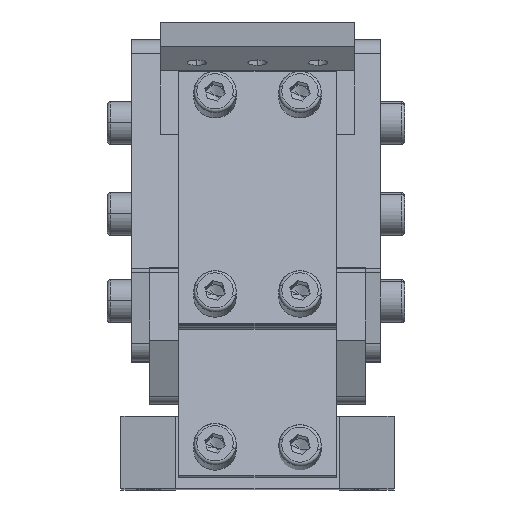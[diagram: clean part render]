
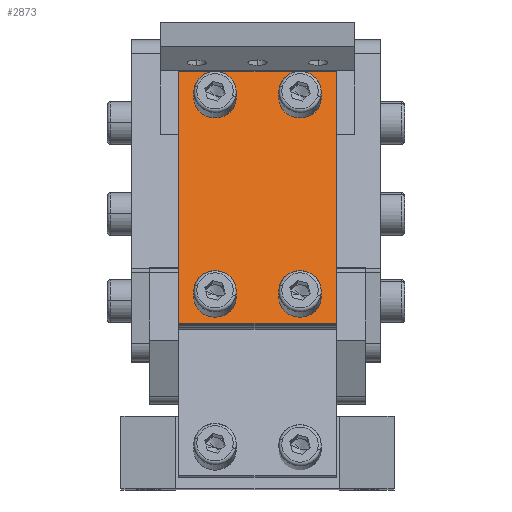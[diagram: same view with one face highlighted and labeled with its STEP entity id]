
A CAD part, top view. The second image highlights one B-rep face of the part: STEP entity #2873.
In plain terms, the highlighted planar face has unit normal (0, 0.259, 0.966).
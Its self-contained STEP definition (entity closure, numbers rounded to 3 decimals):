
#17 = CARTESIAN_POINT ( 'NONE',  ( 9., 25.025, 55.98 ) ) ;
#39 = CARTESIAN_POINT ( 'NONE',  ( 23., -5.885, 64.262 ) ) ;
#47 = CIRCLE ( 'NONE', #8223, 2. ) ;
#248 = PLANE ( 'NONE',  #5058 ) ;
#305 = CARTESIAN_POINT ( 'NONE',  ( 23., 25.025, 55.98 ) ) ;
#435 = CARTESIAN_POINT ( 'NONE',  ( 3., 31.303, 54.298 ) ) ;
#529 = EDGE_CURVE ( 'NONE', #5044, #1659, #5693, .T. ) ;
#1127 = ORIENTED_EDGE ( 'NONE', *, *, #8477, .F. ) ;
#1136 = CIRCLE ( 'NONE', #8290, 2. ) ;
#1173 = DIRECTION ( 'NONE',  ( 0., -0.966, 0.259 ) ) ;
#1384 = VERTEX_POINT ( 'NONE', #2263 ) ;
#1586 = AXIS2_PLACEMENT_3D ( 'NONE', #10965, #9181, #8231 ) ;
#1659 = VERTEX_POINT ( 'NONE', #17 ) ;
#1748 = EDGE_LOOP ( 'NONE', ( #1797, #5864, #11497, #2930 ) ) ;
#1797 = ORIENTED_EDGE ( 'NONE', *, *, #6188, .T. ) ;
#1838 = CIRCLE ( 'NONE', #6961, 2. ) ;
#1888 = VECTOR ( 'NONE', #2692, 1000. ) ;
#1916 = ORIENTED_EDGE ( 'NONE', *, *, #529, .F. ) ;
#2022 = CARTESIAN_POINT ( 'NONE',  ( 29., -10.232, 65.427 ) ) ;
#2051 = EDGE_CURVE ( 'NONE', #11914, #10677, #11863, .T. ) ;
#2140 = VERTEX_POINT ( 'NONE', #9163 ) ;
#2157 = FACE_BOUND ( 'NONE', #4822, .T. ) ;
#2263 = CARTESIAN_POINT ( 'NONE',  ( 3., -10.232, 65.427 ) ) ;
#2631 = CARTESIAN_POINT ( 'NONE',  ( 3., 31.303, 54.298 ) ) ;
#2653 = EDGE_CURVE ( 'NONE', #4749, #11312, #10033, .T. ) ;
#2692 = DIRECTION ( 'NONE',  ( -1., 0., 0. ) ) ;
#2803 = DIRECTION ( 'NONE',  ( 0., 0.966, -0.259 ) ) ;
#2828 = VERTEX_POINT ( 'NONE', #2022 ) ;
#2873 = ADVANCED_FACE ( 'NONE', ( #9897, #11801, #7862, #2157, #11731 ), #248, .T. ) ;
#2906 = DIRECTION ( 'NONE',  ( 0., 0.966, -0.259 ) ) ;
#2930 = ORIENTED_EDGE ( 'NONE', *, *, #6762, .T. ) ;
#2978 = VERTEX_POINT ( 'NONE', #11994 ) ;
#2981 = DIRECTION ( 'NONE',  ( 1., 0., 0. ) ) ;
#3573 = EDGE_CURVE ( 'NONE', #1659, #5044, #1136, .T. ) ;
#3624 = CIRCLE ( 'NONE', #10766, 2. ) ;
#3933 = LINE ( 'NONE', #9502, #11700 ) ;
#4022 = ORIENTED_EDGE ( 'NONE', *, *, #3573, .F. ) ;
#4173 = CARTESIAN_POINT ( 'NONE',  ( 3., 31.303, 54.298 ) ) ;
#4483 = DIRECTION ( 'NONE',  ( 0., 0.966, -0.259 ) ) ;
#4531 = CARTESIAN_POINT ( 'NONE',  ( 23., 26.957, 55.462 ) ) ;
#4533 = CARTESIAN_POINT ( 'NONE',  ( 9., -7.817, 64.78 ) ) ;
#4749 = VERTEX_POINT ( 'NONE', #305 ) ;
#4800 = DIRECTION ( 'NONE',  ( 0., 0.259, 0.966 ) ) ;
#4814 = EDGE_CURVE ( 'NONE', #10677, #11914, #7112, .T. ) ;
#4822 = EDGE_LOOP ( 'NONE', ( #9934, #9783 ) ) ;
#4867 = CARTESIAN_POINT ( 'NONE',  ( 9., 26.957, 55.462 ) ) ;
#5044 = VERTEX_POINT ( 'NONE', #12546 ) ;
#5058 = AXIS2_PLACEMENT_3D ( 'NONE', #11669, #6837, #2981 ) ;
#5319 = CARTESIAN_POINT ( 'NONE',  ( 9., -5.885, 64.262 ) ) ;
#5388 = DIRECTION ( 'NONE',  ( 0., 0.259, 0.966 ) ) ;
#5621 = DIRECTION ( 'NONE',  ( 0., 0.259, 0.966 ) ) ;
#5693 = CIRCLE ( 'NONE', #7351, 2. ) ;
#5773 = VECTOR ( 'NONE', #7789, 1000. ) ;
#5864 = ORIENTED_EDGE ( 'NONE', *, *, #10828, .T. ) ;
#5969 = LINE ( 'NONE', #4173, #6936 ) ;
#6088 = DIRECTION ( 'NONE',  ( 0., 0.966, -0.259 ) ) ;
#6105 = ORIENTED_EDGE ( 'NONE', *, *, #2653, .F. ) ;
#6188 = EDGE_CURVE ( 'NONE', #12397, #1384, #5969, .T. ) ;
#6573 = DIRECTION ( 'NONE',  ( 0., 0.966, -0.259 ) ) ;
#6664 = CARTESIAN_POINT ( 'NONE',  ( 9., 26.957, 55.462 ) ) ;
#6762 = EDGE_CURVE ( 'NONE', #2140, #12397, #7687, .T. ) ;
#6837 = DIRECTION ( 'NONE',  ( 0., 0.259, 0.966 ) ) ;
#6936 = VECTOR ( 'NONE', #1173, 1000. ) ;
#6961 = AXIS2_PLACEMENT_3D ( 'NONE', #10186, #9235, #9302 ) ;
#7112 = CIRCLE ( 'NONE', #1586, 2. ) ;
#7193 = AXIS2_PLACEMENT_3D ( 'NONE', #5319, #5388, #4483 ) ;
#7351 = AXIS2_PLACEMENT_3D ( 'NONE', #4867, #7823, #6088 ) ;
#7687 = LINE ( 'NONE', #2631, #1888 ) ;
#7727 = DIRECTION ( 'NONE',  ( 0., 0.259, 0.966 ) ) ;
#7778 = EDGE_CURVE ( 'NONE', #2978, #10714, #47, .T. ) ;
#7789 = DIRECTION ( 'NONE',  ( 1., 0., 0. ) ) ;
#7823 = DIRECTION ( 'NONE',  ( 0., 0.259, 0.966 ) ) ;
#7862 = FACE_BOUND ( 'NONE', #10585, .T. ) ;
#7899 = ORIENTED_EDGE ( 'NONE', *, *, #9730, .F. ) ;
#7908 = DIRECTION ( 'NONE',  ( 0., 0.259, 0.966 ) ) ;
#7998 = EDGE_LOOP ( 'NONE', ( #6105, #7899 ) ) ;
#8055 = EDGE_LOOP ( 'NONE', ( #8323, #1127 ) ) ;
#8212 = AXIS2_PLACEMENT_3D ( 'NONE', #4531, #7727, #10355 ) ;
#8223 = AXIS2_PLACEMENT_3D ( 'NONE', #39, #7908, #2906 ) ;
#8231 = DIRECTION ( 'NONE',  ( 0., 0.966, -0.259 ) ) ;
#8290 = AXIS2_PLACEMENT_3D ( 'NONE', #6664, #4800, #9598 ) ;
#8314 = CARTESIAN_POINT ( 'NONE',  ( 23., -3.953, 63.744 ) ) ;
#8323 = ORIENTED_EDGE ( 'NONE', *, *, #7778, .F. ) ;
#8442 = CARTESIAN_POINT ( 'NONE',  ( 9., -3.953, 63.744 ) ) ;
#8477 = EDGE_CURVE ( 'NONE', #10714, #2978, #3624, .T. ) ;
#9163 = CARTESIAN_POINT ( 'NONE',  ( 29., 31.303, 54.298 ) ) ;
#9181 = DIRECTION ( 'NONE',  ( 0., 0.259, 0.966 ) ) ;
#9235 = DIRECTION ( 'NONE',  ( 0., 0.259, 0.966 ) ) ;
#9302 = DIRECTION ( 'NONE',  ( 0., 0.966, -0.259 ) ) ;
#9502 = CARTESIAN_POINT ( 'NONE',  ( 29., 31.303, 54.298 ) ) ;
#9514 = LINE ( 'NONE', #10532, #5773 ) ;
#9598 = DIRECTION ( 'NONE',  ( 0., 0.966, -0.259 ) ) ;
#9730 = EDGE_CURVE ( 'NONE', #11312, #4749, #1838, .T. ) ;
#9783 = ORIENTED_EDGE ( 'NONE', *, *, #4814, .F. ) ;
#9897 = FACE_BOUND ( 'NONE', #8055, .T. ) ;
#9934 = ORIENTED_EDGE ( 'NONE', *, *, #2051, .F. ) ;
#10033 = CIRCLE ( 'NONE', #8212, 2. ) ;
#10186 = CARTESIAN_POINT ( 'NONE',  ( 23., 26.957, 55.462 ) ) ;
#10355 = DIRECTION ( 'NONE',  ( 0., 0.966, -0.259 ) ) ;
#10484 = CARTESIAN_POINT ( 'NONE',  ( 23., -5.885, 64.262 ) ) ;
#10532 = CARTESIAN_POINT ( 'NONE',  ( 3., -10.232, 65.427 ) ) ;
#10585 = EDGE_LOOP ( 'NONE', ( #4022, #1916 ) ) ;
#10677 = VERTEX_POINT ( 'NONE', #8442 ) ;
#10714 = VERTEX_POINT ( 'NONE', #8314 ) ;
#10766 = AXIS2_PLACEMENT_3D ( 'NONE', #10484, #5621, #2803 ) ;
#10814 = CARTESIAN_POINT ( 'NONE',  ( 23., 28.888, 54.945 ) ) ;
#10828 = EDGE_CURVE ( 'NONE', #1384, #2828, #9514, .T. ) ;
#10965 = CARTESIAN_POINT ( 'NONE',  ( 9., -5.885, 64.262 ) ) ;
#11312 = VERTEX_POINT ( 'NONE', #10814 ) ;
#11497 = ORIENTED_EDGE ( 'NONE', *, *, #12507, .T. ) ;
#11669 = CARTESIAN_POINT ( 'NONE',  ( 32., -6.483, 64.422 ) ) ;
#11700 = VECTOR ( 'NONE', #6573, 1000. ) ;
#11731 = FACE_OUTER_BOUND ( 'NONE', #1748, .T. ) ;
#11801 = FACE_BOUND ( 'NONE', #7998, .T. ) ;
#11863 = CIRCLE ( 'NONE', #7193, 2. ) ;
#11914 = VERTEX_POINT ( 'NONE', #4533 ) ;
#11994 = CARTESIAN_POINT ( 'NONE',  ( 23., -7.817, 64.78 ) ) ;
#12397 = VERTEX_POINT ( 'NONE', #435 ) ;
#12507 = EDGE_CURVE ( 'NONE', #2828, #2140, #3933, .T. ) ;
#12546 = CARTESIAN_POINT ( 'NONE',  ( 9., 28.888, 54.945 ) ) ;
